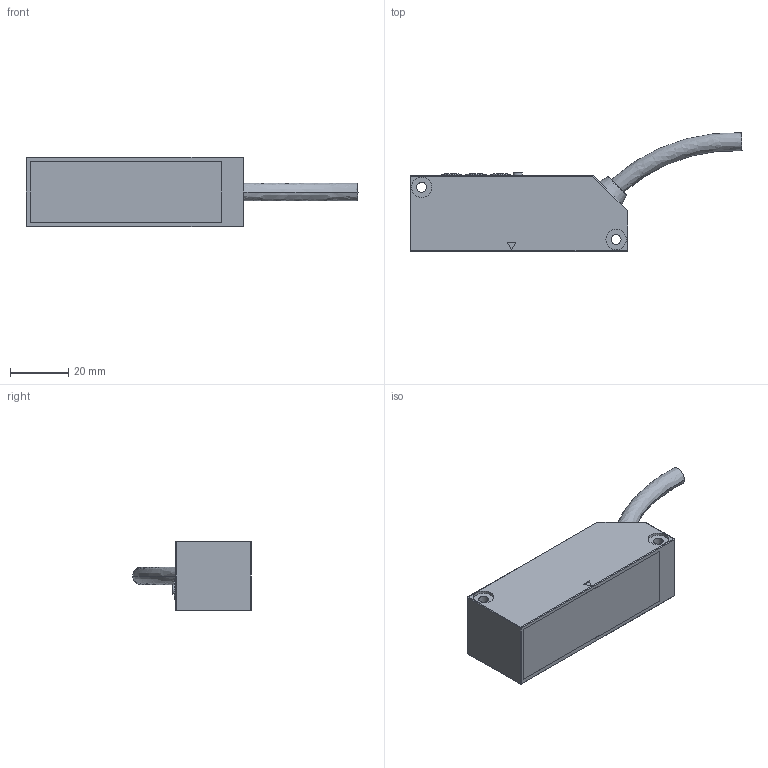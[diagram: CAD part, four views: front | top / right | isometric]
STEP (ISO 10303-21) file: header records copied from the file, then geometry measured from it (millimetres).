
FILE_DESCRIPTION (( 'STEP AP214' ), '1' );
FILE_NAME ('8.LA50.12X1.STEP', '2014-07-01T08:09:11', ( 'HeirlerN' ), ( 'Microsoft' ), 'SwSTEP 2.0', 'SolidWorks 2013', '' );
FILE_SCHEMA (( 'AUTOMOTIVE_DESIGN' ));
Length unit declared in the file: millimetre
Products named in the file (1): 8.LA50.12X1
Bounding box: 114.37 x 40.78 x 24 mm (x, y, z)
Surface area: 10103 mm2 (no closed solid volume)
Topology: 0 solids, 5 shells, 75 faces, 170 edges, 100 vertices
Faces by surface type: cylinder 35, plane 27, bspline 11, cone 2
Entity records: 3021 total; most frequent: CARTESIAN_POINT 525, DIRECTION 368, ORIENTED_EDGE 306, EDGE_CURVE 166, AXIS2_PLACEMENT_3D 143, VERTEX_POINT 100, EDGE_LOOP 88, LINE 82
